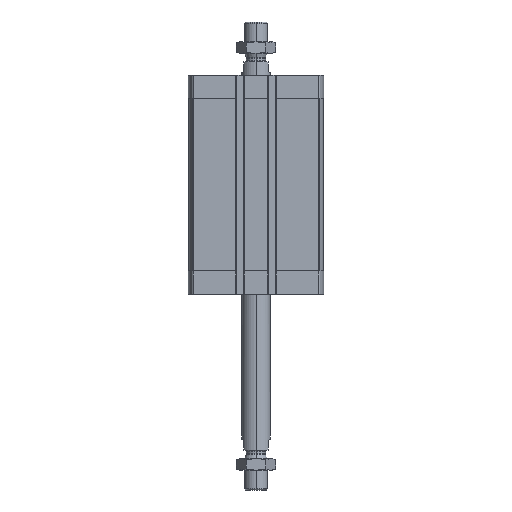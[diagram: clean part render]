
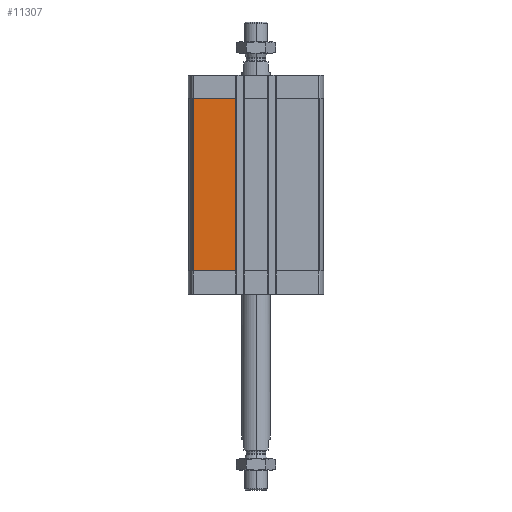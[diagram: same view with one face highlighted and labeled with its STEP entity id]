
A CAD part, left-side view. The second image highlights one B-rep face of the part: STEP entity #11307.
In plain terms, the highlighted planar face has unit normal (-1, 0, 0).
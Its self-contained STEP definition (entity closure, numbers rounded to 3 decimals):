
#509 = EDGE_CURVE ( 'NONE', #16959, #5398, #6123, .T. ) ;
#775 = LINE ( 'NONE', #6428, #13899 ) ;
#812 = VECTOR ( 'NONE', #10339, 1000. ) ;
#1281 = VERTEX_POINT ( 'NONE', #7167 ) ;
#2220 = DIRECTION ( 'NONE',  ( 0., -1., 0. ) ) ;
#2762 = EDGE_CURVE ( 'NONE', #6148, #1281, #10081, .T. ) ;
#3258 = CARTESIAN_POINT ( 'NONE',  ( -47.5, 14.3, -137.5 ) ) ;
#4633 = ORIENTED_EDGE ( 'NONE', *, *, #7544, .F. ) ;
#5398 = VERTEX_POINT ( 'NONE', #8007 ) ;
#6120 = CARTESIAN_POINT ( 'NONE',  ( -47.5, 43.743, -137.5 ) ) ;
#6123 = LINE ( 'NONE', #3258, #14278 ) ;
#6148 = VERTEX_POINT ( 'NONE', #6120 ) ;
#6428 = CARTESIAN_POINT ( 'NONE',  ( -47.5, 43.743, -137.5 ) ) ;
#7167 = CARTESIAN_POINT ( 'NONE',  ( -47.5, 43.743, -16.5 ) ) ;
#7544 = EDGE_CURVE ( 'NONE', #1281, #5398, #7725, .T. ) ;
#7725 = LINE ( 'NONE', #11670, #812 ) ;
#7874 = AXIS2_PLACEMENT_3D ( 'NONE', #9361, #12139, #12463 ) ;
#8007 = CARTESIAN_POINT ( 'NONE',  ( -47.5, 14.3, -16.5 ) ) ;
#8508 = EDGE_LOOP ( 'NONE', ( #4633, #15251, #14217, #15957 ) ) ;
#8923 = DIRECTION ( 'NONE',  ( 0., 0., 1. ) ) ;
#9361 = CARTESIAN_POINT ( 'NONE',  ( -47.5, 43.743, -137.5 ) ) ;
#9994 = DIRECTION ( 'NONE',  ( 0., 0., 1. ) ) ;
#10081 = LINE ( 'NONE', #15486, #14079 ) ;
#10339 = DIRECTION ( 'NONE',  ( 0., -1., 0. ) ) ;
#11307 = ADVANCED_FACE ( 'NONE', ( #12057 ), #16125, .T. ) ;
#11623 = CARTESIAN_POINT ( 'NONE',  ( -47.5, 14.3, -137.5 ) ) ;
#11670 = CARTESIAN_POINT ( 'NONE',  ( -47.5, 43.743, -16.5 ) ) ;
#12057 = FACE_OUTER_BOUND ( 'NONE', #8508, .T. ) ;
#12139 = DIRECTION ( 'NONE',  ( -1., 0., 0. ) ) ;
#12463 = DIRECTION ( 'NONE',  ( 0., 0., 1. ) ) ;
#13899 = VECTOR ( 'NONE', #2220, 1000. ) ;
#14079 = VECTOR ( 'NONE', #9994, 1000. ) ;
#14217 = ORIENTED_EDGE ( 'NONE', *, *, #15326, .T. ) ;
#14278 = VECTOR ( 'NONE', #8923, 1000. ) ;
#15251 = ORIENTED_EDGE ( 'NONE', *, *, #2762, .F. ) ;
#15326 = EDGE_CURVE ( 'NONE', #6148, #16959, #775, .T. ) ;
#15486 = CARTESIAN_POINT ( 'NONE',  ( -47.5, 43.743, -137.5 ) ) ;
#15957 = ORIENTED_EDGE ( 'NONE', *, *, #509, .T. ) ;
#16125 = PLANE ( 'NONE',  #7874 ) ;
#16959 = VERTEX_POINT ( 'NONE', #11623 ) ;
